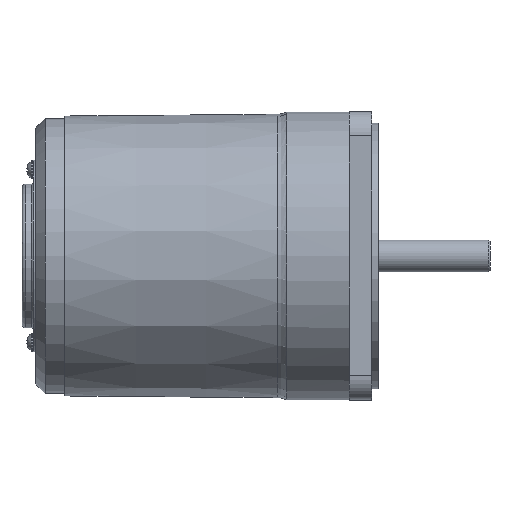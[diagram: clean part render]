
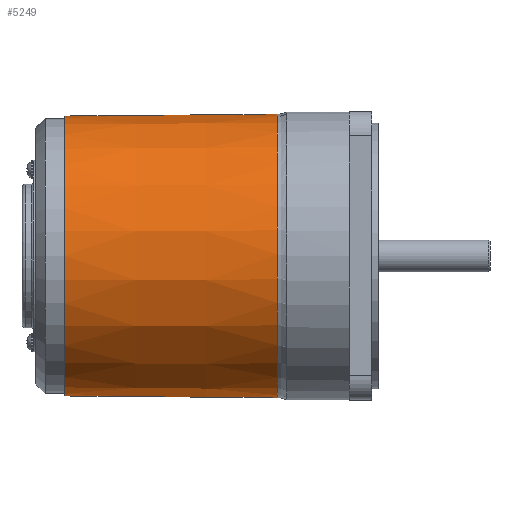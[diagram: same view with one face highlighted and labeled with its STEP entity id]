
A CAD part, top view. The second image highlights one B-rep face of the part: STEP entity #5249.
In plain terms, the highlighted conical face has half-angle 0.48 degrees and reference radius 44.029 mm.
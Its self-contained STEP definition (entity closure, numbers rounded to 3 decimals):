
#102=CONICAL_SURFACE('',#5752,44.029,0.48);
#181=B_SPLINE_CURVE_WITH_KNOTS('',3,(#9395,#9396,#9397,#9398),
 .UNSPECIFIED.,.F.,.F.,(4,4),(3.648,3.698),
 .UNSPECIFIED.);
#182=B_SPLINE_CURVE_WITH_KNOTS('',3,(#9399,#9400,#9401,#9402),
 .UNSPECIFIED.,.F.,.F.,(4,4),(-6.954,-3.698),
 .UNSPECIFIED.);
#183=B_SPLINE_CURVE_WITH_KNOTS('',3,(#9404,#9405,#9406,#9407),
 .UNSPECIFIED.,.F.,.F.,(4,4),(-3.256,0.),.UNSPECIFIED.);
#184=B_SPLINE_CURVE_WITH_KNOTS('',3,(#9409,#9410,#9411,#9412),
 .UNSPECIFIED.,.F.,.F.,(4,4),(3.256,3.306),
 .UNSPECIFIED.);
#372=FACE_BOUND('',#1209,.T.);
#572=CIRCLE('',#5735,43.75);
#582=CIRCLE('',#5751,44.308);
#583=CIRCLE('',#5753,44.031);
#866=FACE_OUTER_BOUND('',#1208,.T.);
#1208=EDGE_LOOP('',(#4292,#4293,#4294,#4295,#4296,#4297));
#1209=EDGE_LOOP('',(#4298));
#2350=VERTEX_POINT('',#9271);
#2361=VERTEX_POINT('',#9332);
#2373=VERTEX_POINT('',#9385);
#2374=VERTEX_POINT('',#9393);
#2375=VERTEX_POINT('',#9394);
#2376=VERTEX_POINT('',#9403);
#2377=VERTEX_POINT('',#9408);
#3016=EDGE_CURVE('',#2350,#2350,#572,.T.);
#3042=EDGE_CURVE('',#2361,#2373,#582,.T.);
#3043=EDGE_CURVE('',#2374,#2375,#181,.T.);
#3044=EDGE_CURVE('',#2373,#2375,#182,.T.);
#3045=EDGE_CURVE('',#2376,#2361,#183,.T.);
#3046=EDGE_CURVE('',#2376,#2377,#184,.T.);
#3047=EDGE_CURVE('',#2374,#2377,#583,.T.);
#4292=ORIENTED_EDGE('',*,*,#3043,.T.);
#4293=ORIENTED_EDGE('',*,*,#3044,.F.);
#4294=ORIENTED_EDGE('',*,*,#3042,.F.);
#4295=ORIENTED_EDGE('',*,*,#3045,.F.);
#4296=ORIENTED_EDGE('',*,*,#3046,.T.);
#4297=ORIENTED_EDGE('',*,*,#3047,.F.);
#4298=ORIENTED_EDGE('',*,*,#3016,.T.);
#5249=ADVANCED_FACE('',(#866,#372),#102,.T.);
#5735=AXIS2_PLACEMENT_3D('',#9272,#6906,#6907);
#5751=AXIS2_PLACEMENT_3D('',#9391,#6945,#6946);
#5752=AXIS2_PLACEMENT_3D('',#9392,#6947,#6948);
#5753=AXIS2_PLACEMENT_3D('',#9413,#6949,#6950);
#6906=DIRECTION('center_axis',(1.,0.,0.));
#6907=DIRECTION('ref_axis',(0.,1.,0.));
#6945=DIRECTION('center_axis',(1.,0.,0.));
#6946=DIRECTION('ref_axis',(0.,1.,0.));
#6947=DIRECTION('center_axis',(1.,0.,0.));
#6948=DIRECTION('ref_axis',(0.,1.,0.));
#6949=DIRECTION('center_axis',(1.,0.,0.));
#6950=DIRECTION('ref_axis',(0.,0.,-1.));
#9271=CARTESIAN_POINT('',(9.,43.75,0.));
#9272=CARTESIAN_POINT('Origin',(9.,0.,0.));
#9332=CARTESIAN_POINT('',(75.559,29.222,-33.306));
#9385=CARTESIAN_POINT('',(75.559,-29.222,-33.306));
#9391=CARTESIAN_POINT('Origin',(75.559,0.,0.));
#9392=CARTESIAN_POINT('Origin',(42.279,0.,
0.));
#9393=CARTESIAN_POINT('',(42.504,-29.21,-32.947));
#9394=CARTESIAN_POINT('',(43.,-29.21,-32.952));
#9395=CARTESIAN_POINT('Ctrl Pts',(42.504,-29.21,-32.947));
#9396=CARTESIAN_POINT('Ctrl Pts',(42.669,-29.21,-32.949));
#9397=CARTESIAN_POINT('Ctrl Pts',(42.835,-29.21,-32.95));
#9398=CARTESIAN_POINT('Ctrl Pts',(43.,-29.21,-32.952));
#9399=CARTESIAN_POINT('Ctrl Pts',(75.559,-29.222,-33.306));
#9400=CARTESIAN_POINT('Ctrl Pts',(64.706,-29.218,-33.188));
#9401=CARTESIAN_POINT('Ctrl Pts',(53.853,-29.214,-33.07));
#9402=CARTESIAN_POINT('Ctrl Pts',(43.,-29.21,-32.952));
#9403=CARTESIAN_POINT('',(43.,29.21,-32.952));
#9404=CARTESIAN_POINT('Ctrl Pts',(43.,29.21,-32.952));
#9405=CARTESIAN_POINT('Ctrl Pts',(53.853,29.214,-33.07));
#9406=CARTESIAN_POINT('Ctrl Pts',(64.706,29.218,-33.188));
#9407=CARTESIAN_POINT('Ctrl Pts',(75.559,29.222,-33.306));
#9408=CARTESIAN_POINT('',(42.504,29.21,-32.947));
#9409=CARTESIAN_POINT('Ctrl Pts',(43.,29.21,-32.952));
#9410=CARTESIAN_POINT('Ctrl Pts',(42.835,29.21,-32.95));
#9411=CARTESIAN_POINT('Ctrl Pts',(42.669,29.21,-32.949));
#9412=CARTESIAN_POINT('Ctrl Pts',(42.504,29.21,-32.947));
#9413=CARTESIAN_POINT('Origin',(42.504,0.,0.));
